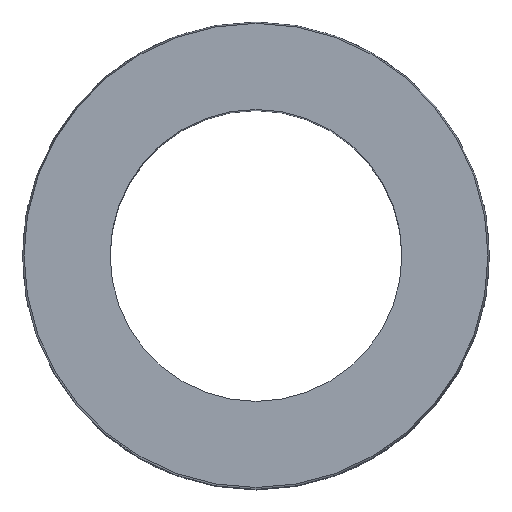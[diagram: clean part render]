
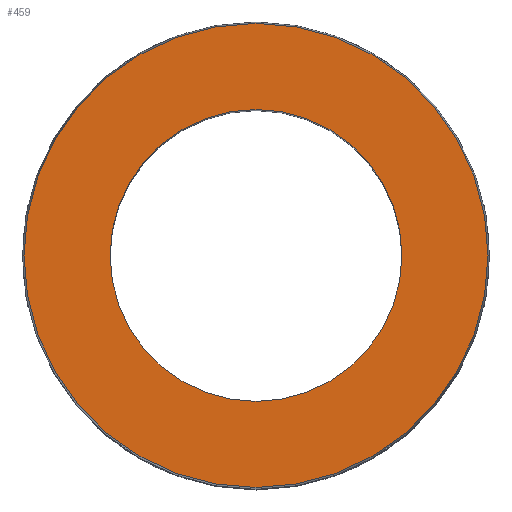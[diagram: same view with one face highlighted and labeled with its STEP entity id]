
A CAD part, top view. The second image highlights one B-rep face of the part: STEP entity #459.
In plain terms, the highlighted planar face has unit normal (0, 0, 1).
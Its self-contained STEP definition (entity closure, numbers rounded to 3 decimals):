
#49=CARTESIAN_POINT('',(-12.799,1.811,45.0));
#50=VERTEX_POINT('',#49);
#59=CARTESIAN_POINT('',(7.201,1.811,45.0));
#60=VERTEX_POINT('',#59);
#61=CARTESIAN_POINT('',(-2.799,1.811,45.0));
#62=DIRECTION('',(0.0,0.0,-1.0));
#63=DIRECTION('',(-1.0,0.0,0.0));
#64=AXIS2_PLACEMENT_3D('',#61,#62,#63);
#65=CIRCLE('',#64,10.0);
#66=EDGE_CURVE('',#60,#50,#65,.T.);
#235=CARTESIAN_POINT('',(-18.699,1.811,45.0));
#236=VERTEX_POINT('',#235);
#243=CARTESIAN_POINT('',(13.101,1.811,45.0));
#244=VERTEX_POINT('',#243);
#245=CARTESIAN_POINT('',(-2.799,1.811,45.0));
#246=DIRECTION('',(0.0,0.0,-1.0));
#247=DIRECTION('',(-1.0,0.0,0.0));
#248=AXIS2_PLACEMENT_3D('',#245,#246,#247);
#249=CIRCLE('',#248,15.9);
#250=EDGE_CURVE('',#236,#244,#249,.T.);
#412=CARTESIAN_POINT('',(-2.799,1.811,45.0));
#413=DIRECTION('',(0.0,0.0,-1.0));
#414=DIRECTION('',(-1.0,0.0,0.0));
#415=AXIS2_PLACEMENT_3D('',#412,#413,#414);
#416=CIRCLE('',#415,15.9);
#417=EDGE_CURVE('',#244,#236,#416,.T.);
#440=CARTESIAN_POINT('',(-2.799,1.811,45.0));
#441=DIRECTION('',(0.0,0.0,-1.0));
#442=DIRECTION('',(-1.0,0.0,0.0));
#443=AXIS2_PLACEMENT_3D('',#440,#441,#442);
#444=PLANE('',#443);
#445=ORIENTED_EDGE('',*,*,#417,.F.);
#446=ORIENTED_EDGE('',*,*,#250,.F.);
#447=EDGE_LOOP('',(#445,#446));
#448=FACE_OUTER_BOUND('',#447,.T.);
#449=ORIENTED_EDGE('',*,*,#66,.T.);
#450=CARTESIAN_POINT('',(-2.799,1.811,45.0));
#451=DIRECTION('',(0.0,0.0,-1.0));
#452=DIRECTION('',(-1.0,0.0,0.0));
#453=AXIS2_PLACEMENT_3D('',#450,#451,#452);
#454=CIRCLE('',#453,10.0);
#455=EDGE_CURVE('',#50,#60,#454,.T.);
#456=ORIENTED_EDGE('',*,*,#455,.T.);
#457=EDGE_LOOP('',(#449,#456));
#458=FACE_BOUND('',#457,.T.);
#459=ADVANCED_FACE('',(#448,#458),#444,.F.);
